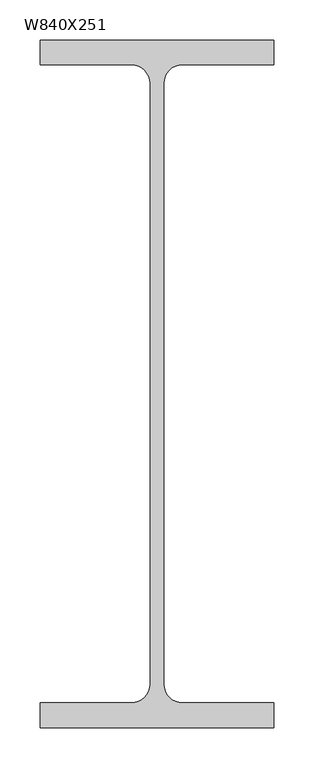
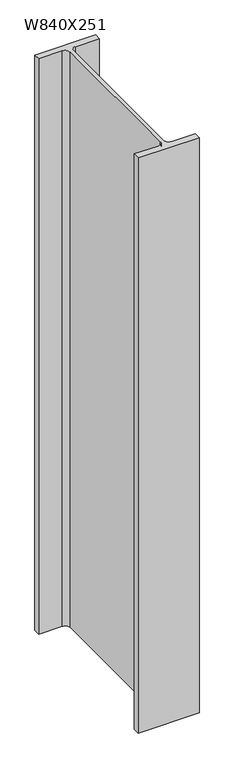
"""IFC4 building model written with IfcOpenShell, lengths in millimetres: column geometry, M_W-Wide Flange-Column : W840X251."""

from ifc_helpers import new_model, si_unit, point, frame_2d, origin, origin_with_axes, place, context, project, spatial, polyline, circle_curve, trimmed, segment, composite_curve, outline, extrude, source, transform, mapped, element, save


def w840x251_ab389207(model_context):
    return source(origin(), model_context, "Body", "SweptSolid", [
        extrude(outline(composite_curve([segment(polyline([(146.0, 429.5), (146.0, 398.5), (31.5, 398.5)]), True, "CONTINUOUS"), segment(trimmed(circle_curve(frame_2d((31.5, 375.5)), 23.0), [point((31.5, 398.5))], [point((8.5, 375.5))], True, "CARTESIAN"), True, "CONTINUOUS"), segment(polyline([(8.5, 375.5), (8.5, -375.5)]), True, "CONTINUOUS"), segment(trimmed(circle_curve(frame_2d((31.5, -375.5)), 23.0), [point((8.5, -375.5))], [point((31.5, -398.5))], True, "CARTESIAN"), True, "CONTINUOUS"), segment(polyline([(31.5, -398.5), (146.0, -398.5), (146.0, -429.5), (-146.0, -429.5), (-146.0, -398.5), (-31.5, -398.5)]), True, "CONTINUOUS"), segment(trimmed(circle_curve(frame_2d((-31.5, -375.5)), 23.0), [point((-31.5, -398.5))], [point((-8.5, -375.5))], True, "CARTESIAN"), True, "CONTINUOUS"), segment(polyline([(-8.5, -375.5), (-8.5, 375.5)]), True, "CONTINUOUS"), segment(trimmed(circle_curve(frame_2d((-31.5, 375.5)), 23.0), [point((-8.5, 375.5))], [point((-31.5, 398.5))], True, "CARTESIAN"), True, "CONTINUOUS"), segment(polyline([(-31.5, 398.5), (-146.0, 398.5), (-146.0, 429.5), (146.0, 429.5)]), True, "CONTINUOUS")], self_intersect=False)), origin_with_axes(), (0.0, 0.0, 1.0), 2921.0),
    ])


if __name__ == "__main__":
    model = new_model("IFC4")
    model_context = context("Model", 3, world=origin())
    ifc_project = project(units=[si_unit("LENGTHUNIT", "METRE", prefix="MILLI")], contexts=[model_context])
    site = spatial("IfcSite", under=ifc_project)
    building = spatial("IfcBuilding", under=site)
    placement = place(None, origin())
    w840x251_shape = w840x251_ab389207(model_context)
    element("IfcColumn", 1, ObjectType="M_W-Wide Flange-Column : W840X251", at=placement, inside=building, context=model_context, shape_type="MappedRepresentation", body=[
        mapped(w840x251_shape, transform((0.0, 0.0, 0.0), x_axis=(1.0, 0.0, 0.0), y_axis=(0.0, 1.0, 0.0), z_axis=(0.0, 0.0, 1.0))),
    ])
    save(model, "model.ifc")
